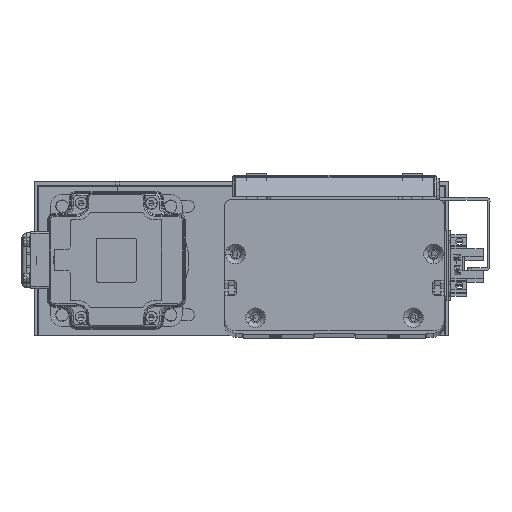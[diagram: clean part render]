
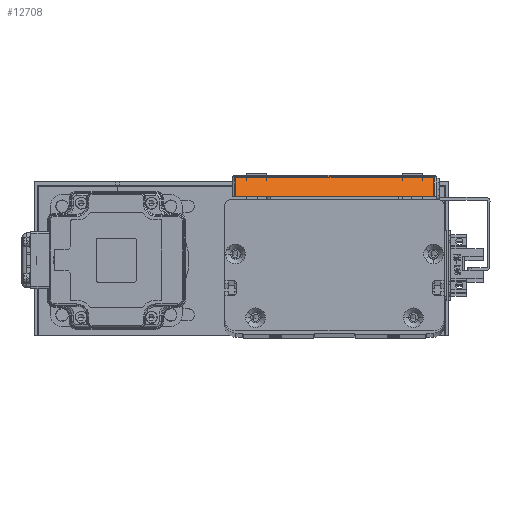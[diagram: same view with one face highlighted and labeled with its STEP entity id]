
A CAD part, top view. The second image highlights one B-rep face of the part: STEP entity #12708.
In plain terms, the highlighted planar face has unit normal (0, 0.707, 0.707) as drawn and (-0.707, 0, -0.707) by its records, which use the part's own axes.
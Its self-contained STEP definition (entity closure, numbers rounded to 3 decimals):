
#1259 = CARTESIAN_POINT ( 'NONE',  ( -66.5, 93.4, 4.1 ) ) ;
#1588 = EDGE_CURVE ( 'NONE', #67396, #13661, #39817, .T. ) ;
#4413 = ORIENTED_EDGE ( 'NONE', *, *, #1588, .T. ) ;
#6256 = VECTOR ( 'NONE', #18141, 1000. ) ;
#6687 = VECTOR ( 'NONE', #19985, 1000. ) ;
#10138 = CARTESIAN_POINT ( 'NONE',  ( -68., 93.4, 5.6 ) ) ;
#10695 = CARTESIAN_POINT ( 'NONE',  ( -57.298, 1.7, -5.102 ) ) ;
#12708 = ADVANCED_FACE ( 'NONE', ( #24784 ), #70115, .T. ) ;
#13661 = VERTEX_POINT ( 'NONE', #10695 ) ;
#14091 = CARTESIAN_POINT ( 'NONE',  ( -57.298, 91.7, -5.102 ) ) ;
#18141 = DIRECTION ( 'NONE',  ( 0., 1., 0. ) ) ;
#19667 = CARTESIAN_POINT ( 'NONE',  ( -66.5, 1.7, 4.1 ) ) ;
#19985 = DIRECTION ( 'NONE',  ( -0.707, 0., 0.707 ) ) ;
#21277 = CARTESIAN_POINT ( 'NONE',  ( -66.5, 91.7, 4.1 ) ) ;
#21641 = VERTEX_POINT ( 'NONE', #21277 ) ;
#23038 = VERTEX_POINT ( 'NONE', #19667 ) ;
#24784 = FACE_OUTER_BOUND ( 'NONE', #55285, .T. ) ;
#29277 = CARTESIAN_POINT ( 'NONE',  ( -57.298, 93.4, -5.102 ) ) ;
#30102 = CARTESIAN_POINT ( 'NONE',  ( -68., 1.7, 5.6 ) ) ;
#33673 = ORIENTED_EDGE ( 'NONE', *, *, #46304, .T. ) ;
#35219 = EDGE_CURVE ( 'NONE', #13661, #23038, #46305, .T. ) ;
#38317 = CARTESIAN_POINT ( 'NONE',  ( -68., 91.7, 5.6 ) ) ;
#39817 = LINE ( 'NONE', #29277, #68234 ) ;
#41283 = ORIENTED_EDGE ( 'NONE', *, *, #35219, .T. ) ;
#42394 = AXIS2_PLACEMENT_3D ( 'NONE', #10138, #43566, #65509 ) ;
#43566 = DIRECTION ( 'NONE',  ( -0.707, 0., -0.707 ) ) ;
#43859 = DIRECTION ( 'NONE',  ( 0.707, 0., -0.707 ) ) ;
#46304 = EDGE_CURVE ( 'NONE', #21641, #67396, #47796, .T. ) ;
#46305 = LINE ( 'NONE', #30102, #6687 ) ;
#47796 = LINE ( 'NONE', #38317, #53841 ) ;
#47941 = EDGE_CURVE ( 'NONE', #23038, #21641, #55366, .T. ) ;
#53841 = VECTOR ( 'NONE', #43859, 1000. ) ;
#55285 = EDGE_LOOP ( 'NONE', ( #41283, #57836, #33673, #4413 ) ) ;
#55366 = LINE ( 'NONE', #1259, #6256 ) ;
#56936 = DIRECTION ( 'NONE',  ( 0., -1., 0. ) ) ;
#57836 = ORIENTED_EDGE ( 'NONE', *, *, #47941, .T. ) ;
#65509 = DIRECTION ( 'NONE',  ( -0.707, 0., 0.707 ) ) ;
#67396 = VERTEX_POINT ( 'NONE', #14091 ) ;
#68234 = VECTOR ( 'NONE', #56936, 1000. ) ;
#70115 = PLANE ( 'NONE',  #42394 ) ;
